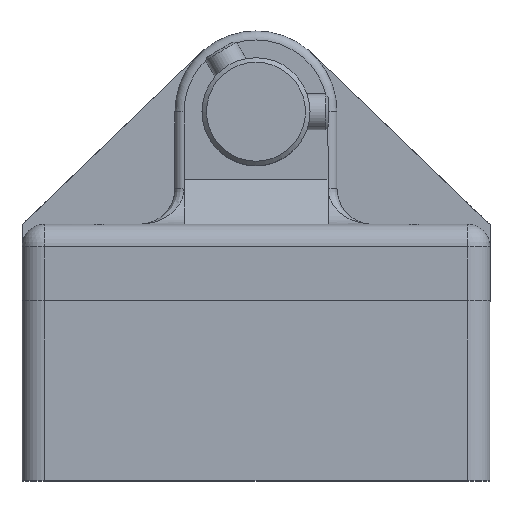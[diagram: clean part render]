
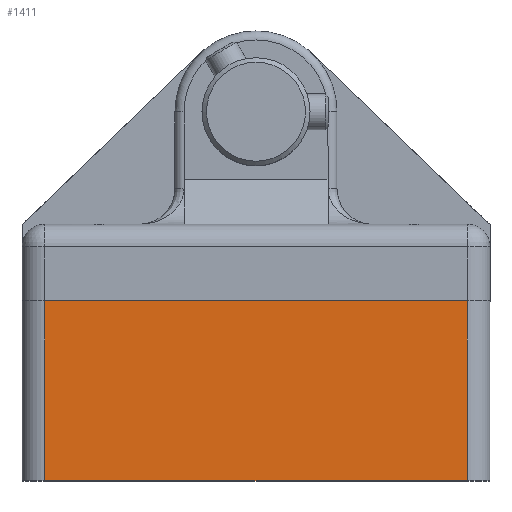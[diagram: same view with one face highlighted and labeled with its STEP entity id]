
A CAD part, top view. The second image highlights one B-rep face of the part: STEP entity #1411.
In plain terms, the highlighted planar face has unit normal (0, 0, 1) as drawn and (0, 0, -1) by its records, which use the part's own axes.
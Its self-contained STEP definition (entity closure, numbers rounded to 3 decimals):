
#15 = VECTOR ( 'NONE', #3433, 1000. ) ;
#181 = EDGE_CURVE ( 'NONE', #2843, #229, #1269, .T. ) ;
#222 = VECTOR ( 'NONE', #1975, 1000. ) ;
#229 = VERTEX_POINT ( 'NONE', #3140 ) ;
#331 = VERTEX_POINT ( 'NONE', #1415 ) ;
#471 = DIRECTION ( 'NONE',  ( 0., 1., 0. ) ) ;
#665 = LINE ( 'NONE', #3342, #222 ) ;
#669 = VERTEX_POINT ( 'NONE', #2990 ) ;
#734 = LINE ( 'NONE', #1798, #1889 ) ;
#738 = ORIENTED_EDGE ( 'NONE', *, *, #1598, .T. ) ;
#760 = DIRECTION ( 'NONE',  ( 0., 0., 1. ) ) ;
#910 = CARTESIAN_POINT ( 'NONE',  ( -26., 0., -9. ) ) ;
#999 = CARTESIAN_POINT ( 'NONE',  ( -26., 20., -9. ) ) ;
#1022 = ORIENTED_EDGE ( 'NONE', *, *, #181, .F. ) ;
#1224 = CARTESIAN_POINT ( 'NONE',  ( 23.5, 20., -9. ) ) ;
#1269 = LINE ( 'NONE', #999, #15 ) ;
#1350 = ORIENTED_EDGE ( 'NONE', *, *, #2980, .T. ) ;
#1411 = ADVANCED_FACE ( 'NONE', ( #2314 ), #3389, .F. ) ;
#1415 = CARTESIAN_POINT ( 'NONE',  ( 23.5, 0., -9. ) ) ;
#1598 = EDGE_CURVE ( 'NONE', #2843, #331, #665, .T. ) ;
#1626 = EDGE_CURVE ( 'NONE', #331, #669, #3301, .T. ) ;
#1789 = DIRECTION ( 'NONE',  ( 1., 0., 0. ) ) ;
#1798 = CARTESIAN_POINT ( 'NONE',  ( -23.5, 20., -9. ) ) ;
#1889 = VECTOR ( 'NONE', #471, 1000. ) ;
#1975 = DIRECTION ( 'NONE',  ( 0., -1., 0. ) ) ;
#2060 = EDGE_LOOP ( 'NONE', ( #1022, #738, #2095, #1350 ) ) ;
#2095 = ORIENTED_EDGE ( 'NONE', *, *, #1626, .T. ) ;
#2314 = FACE_OUTER_BOUND ( 'NONE', #2060, .T. ) ;
#2578 = CARTESIAN_POINT ( 'NONE',  ( -26., 20., -9. ) ) ;
#2654 = AXIS2_PLACEMENT_3D ( 'NONE', #2578, #760, #1789 ) ;
#2843 = VERTEX_POINT ( 'NONE', #1224 ) ;
#2980 = EDGE_CURVE ( 'NONE', #669, #229, #734, .T. ) ;
#2990 = CARTESIAN_POINT ( 'NONE',  ( -23.5, 0., -9. ) ) ;
#3024 = DIRECTION ( 'NONE',  ( -1., 0., 0. ) ) ;
#3140 = CARTESIAN_POINT ( 'NONE',  ( -23.5, 20., -9. ) ) ;
#3225 = VECTOR ( 'NONE', #3024, 1000. ) ;
#3301 = LINE ( 'NONE', #910, #3225 ) ;
#3342 = CARTESIAN_POINT ( 'NONE',  ( 23.5, 20., -9. ) ) ;
#3389 = PLANE ( 'NONE',  #2654 ) ;
#3433 = DIRECTION ( 'NONE',  ( -1., 0., 0. ) ) ;
